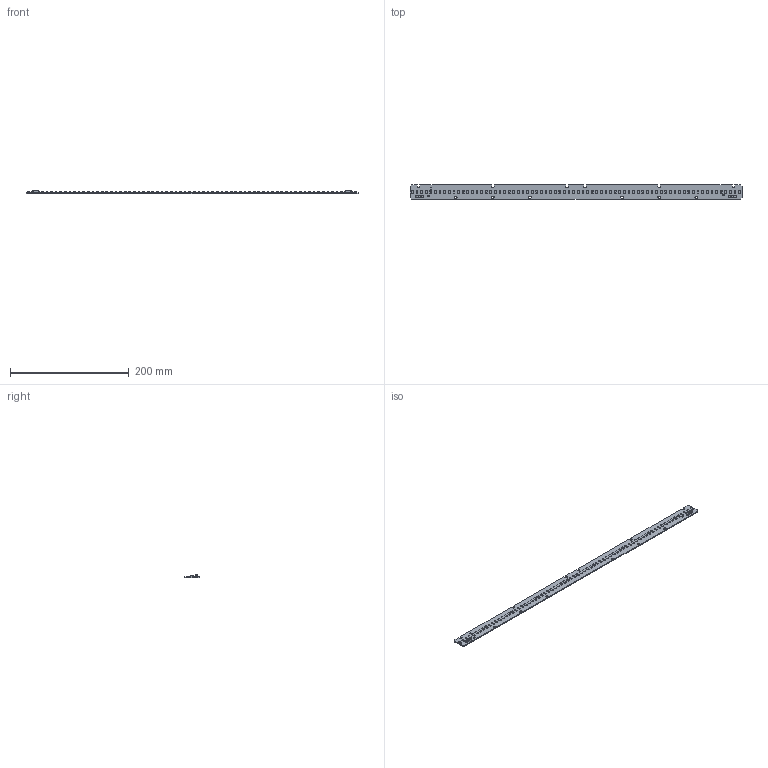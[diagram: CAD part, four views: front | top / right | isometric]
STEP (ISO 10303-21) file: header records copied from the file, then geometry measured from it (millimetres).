
FILE_DESCRIPTION((''),'2;1');
FILE_NAME('16206871_LLE-G4_24X560_4000LM','2016-07-01T',('bernhard.fink'),(''),'PRO/ENGINEER BY PARAMETRIC TECHNOLOGY CORPORATION, 2015200','PRO/ENGINEER BY PARAMETRIC TECHNOLOGY CORPORATION, 2015200','');
FILE_SCHEMA(('AUTOMOTIVE_DESIGN { 1 0 10303 214 1 1 1 1 }'));
Products named in the file (1): 16206871_LLE-G4_24X560_4000LM
Bounding box: 559 x 23.6 x 5.1 mm (x, y, z)
Volume: 22654.2 mm3; surface area: 29530.1 mm2
Topology: 1 solids, 1 shells, 3296 faces, 9156 edges, 5934 vertices
Faces by surface type: plane 1974, cylinder 1076, bspline 116, revolution 72, cone 34, torus 12, sphere 12
Entity records: 157682 total; most frequent: CARTESIAN_POINT 28338, ORIENTED_EDGE 18144, DIRECTION 15660, PRESENTATION_STYLE_ASSIGNMENT 11865, STYLED_ITEM 9145, CURVE_STYLE 9144, EDGE_CURVE 9072, VECTOR 6212
